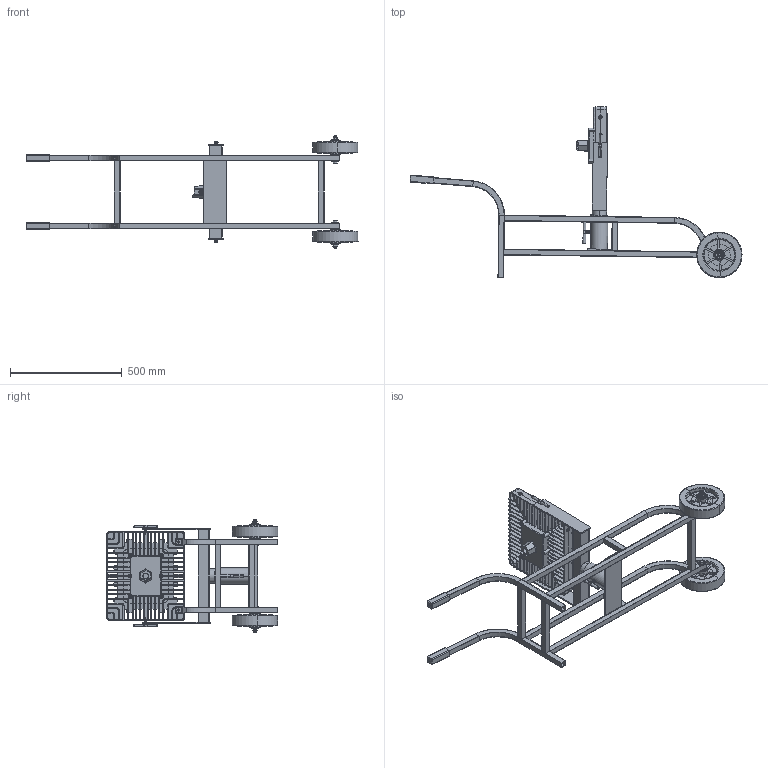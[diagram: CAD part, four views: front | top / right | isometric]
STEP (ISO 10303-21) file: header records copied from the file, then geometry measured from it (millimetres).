
FILE_DESCRIPTION (( 'STEP AP214' ), '1' );
FILE_NAME ('EPL-16C-1MLED.STEP', '2016-01-04T14:33:29', ( '' ), ( '' ), 'SwSTEP 2.0', 'SolidWorks 2016', '' );
FILE_SCHEMA (( 'AUTOMOTIVE_DESIGN' ));
Length unit declared in the file: inch
Products named in the file (22): Head Upright; EPL-16C-1MLED; Head Cross Beam_Default<As Machined>; Head Tubing; hex bolt_ai_HBOLT 0.5000-13x4.5x1.25-S; hex nut_ai_HNUT 0.5000-13-D-N; Rack Mount 8 inch Wheel_1; flat washer type b regular_ai_Regular FW 0.5; Handle cap; EPL-16C-150LED Frame Weld; hex nut_ai_HNUT 0.3125-18-D-N; Light Holder; Light Holder Plate; EPL-16C-150LED Frame; Upright_Default<As Machined>; Handle Beam_Default<As Machined>; Cross Beam_Default<As Machined>; EPL-HB-150LED-RT Base; Wheel Beam_Default<As Machined>; .3125 T handle; Side Beam_Default<As Machined>; EPL-16C-150LED Head Weld
Assembly tree (39 placements, depth 4):
  EPL-16C-1MLED
    EPL-16C-150LED Frame Weld
      EPL-16C-150LED Frame
        Side Beam_Default<As Machined>  x2
        Wheel Beam_Default<As Machined>  x2
        Cross Beam_Default<As Machined>  x3
        Handle Beam_Default<As Machined>  x2
        Upright_Default<As Machined>  x2
      Light Holder Plate
      Light Holder
      hex nut_ai_HNUT 0.3125-18-D-N
    Handle cap  x2
    flat washer type b regular_ai_Regular FW 0.5  x6
    Rack Mount 8 inch Wheel_1  x2
    hex nut_ai_HNUT 0.5000-13-D-N  x2
    hex bolt_ai_HBOLT 0.5000-13x4.5x1.25-S  x2
    EPL-16C-150LED Head Weld
      Head Tubing
      Head Cross Beam_Default<As Machined>
      Head Upright  x2
    .3125 T handle  x3
    EPL-HB-150LED-RT Base
Bounding box: 1487.48 x 767.15 x 502.92 mm (x, y, z)
Volume: 9877437.2 mm3; surface area: 2858186.2 mm2
Topology: 42 solids, 42 shells, 3589 faces, 9403 edges, 5845 vertices
Faces by surface type: plane 1589, cylinder 1255, torus 336, cone 220, bspline 189
Entity records: 105734 total; most frequent: CARTESIAN_POINT 29245, ORIENTED_EDGE 15676, DIRECTION 14954, EDGE_CURVE 7838, AXIS2_PLACEMENT_3D 5169, VERTEX_POINT 4853, LINE 4616, VECTOR 4616
